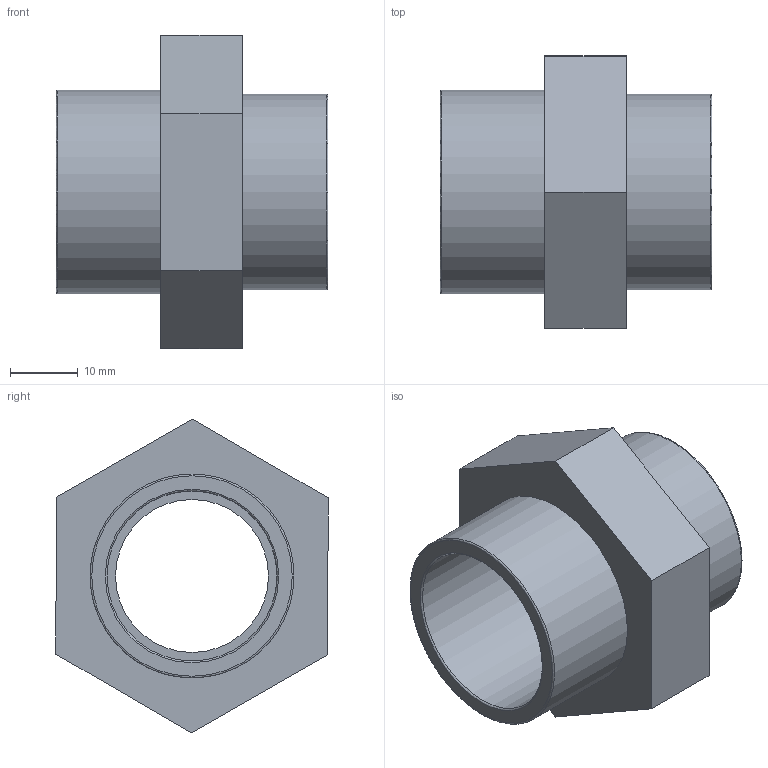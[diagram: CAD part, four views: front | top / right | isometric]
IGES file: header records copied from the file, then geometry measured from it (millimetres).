
Global section: file name: 050102025007.ipt; native system: Autodesk Inventor 2015; preprocessor: unknown; author: KIM; date: 20171207.164056; units: millimetre
Bounding box: 40 x 40.06 x 46.19 mm (x, y, z)
Volume: 16946.4 mm3; surface area: 9260 mm2
Topology: 1 solids, 1 shells, 21 faces, 55 edges, 40 vertices
Faces by surface type: plane 12, revolution 7, cylinder 2
Full cylindrical faces by diameter (mm): 28.75 x1, 30 x1
